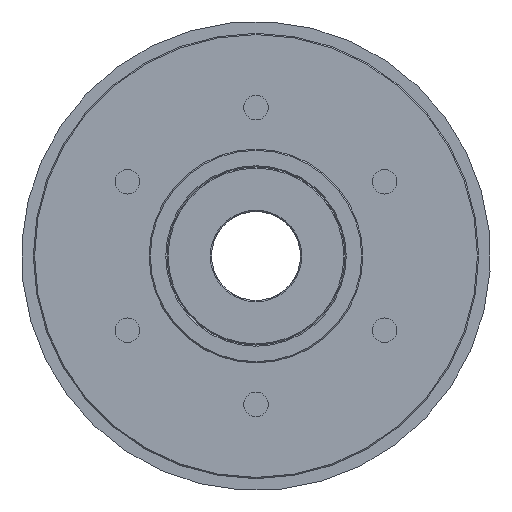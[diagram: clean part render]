
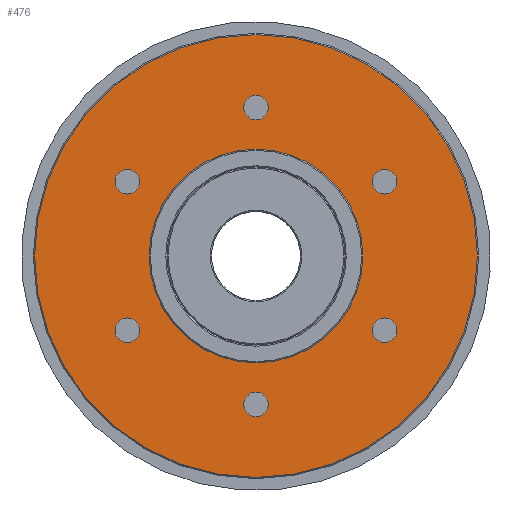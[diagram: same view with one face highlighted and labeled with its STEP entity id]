
A CAD part, left-side view. The second image highlights one B-rep face of the part: STEP entity #476.
In plain terms, the highlighted planar face has unit normal (-1, 0, 0).
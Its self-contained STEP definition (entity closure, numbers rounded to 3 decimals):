
#476 = ADVANCED_FACE( '', ( #960, #961, #962, #963, #964, #965, #966, #967 ), #968, .T. );
#960 = FACE_BOUND( '', #1592, .T. );
#961 = FACE_BOUND( '', #1593, .T. );
#962 = FACE_BOUND( '', #1594, .T. );
#963 = FACE_BOUND( '', #1595, .T. );
#964 = FACE_BOUND( '', #1596, .T. );
#965 = FACE_BOUND( '', #1597, .T. );
#966 = FACE_OUTER_BOUND( '', #1598, .T. );
#967 = FACE_BOUND( '', #1599, .T. );
#968 = PLANE( '', #1600 );
#1592 = EDGE_LOOP( '', ( #2259 ) );
#1593 = EDGE_LOOP( '', ( #2260 ) );
#1594 = EDGE_LOOP( '', ( #2261 ) );
#1595 = EDGE_LOOP( '', ( #2262 ) );
#1596 = EDGE_LOOP( '', ( #2263 ) );
#1597 = EDGE_LOOP( '', ( #2264 ) );
#1598 = EDGE_LOOP( '', ( #2265 ) );
#1599 = EDGE_LOOP( '', ( #2266 ) );
#1600 = AXIS2_PLACEMENT_3D( '', #2267, #2268, #2269 );
#2259 = ORIENTED_EDGE( '', *, *, #3042, .T. );
#2260 = ORIENTED_EDGE( '', *, *, #3045, .T. );
#2261 = ORIENTED_EDGE( '', *, *, #3152, .T. );
#2262 = ORIENTED_EDGE( '', *, *, #3153, .T. );
#2263 = ORIENTED_EDGE( '', *, *, #3154, .T. );
#2264 = ORIENTED_EDGE( '', *, *, #3155, .T. );
#2265 = ORIENTED_EDGE( '', *, *, #3156, .T. );
#2266 = ORIENTED_EDGE( '', *, *, #3157, .F. );
#2267 = CARTESIAN_POINT( '', ( 13., 0., 18. ) );
#2268 = DIRECTION( '', ( -1., 0., 0. ) );
#2269 = DIRECTION( '', ( 0., 0., 1. ) );
#3042 = EDGE_CURVE( '', #3402, #3402, #3403, .T. );
#3045 = EDGE_CURVE( '', #3407, #3407, #3408, .T. );
#3152 = EDGE_CURVE( '', #3585, #3585, #3586, .T. );
#3153 = EDGE_CURVE( '', #3587, #3587, #3588, .T. );
#3154 = EDGE_CURVE( '', #3589, #3589, #3590, .T. );
#3155 = EDGE_CURVE( '', #3591, #3591, #3592, .T. );
#3156 = EDGE_CURVE( '', #3593, #3593, #3594, .T. );
#3157 = EDGE_CURVE( '', #3595, #3595, #3596, .T. );
#3402 = VERTEX_POINT( '', #3935 );
#3403 = CIRCLE( '', #3936, 2.067 );
#3407 = VERTEX_POINT( '', #3940 );
#3408 = CIRCLE( '', #3941, 2.067 );
#3585 = VERTEX_POINT( '', #4369 );
#3586 = CIRCLE( '', #4370, 2.067 );
#3587 = VERTEX_POINT( '', #4371 );
#3588 = CIRCLE( '', #4372, 2.067 );
#3589 = VERTEX_POINT( '', #4373 );
#3590 = CIRCLE( '', #4374, 2.067 );
#3591 = VERTEX_POINT( '', #4375 );
#3592 = CIRCLE( '', #4376, 2.067 );
#3593 = VERTEX_POINT( '', #4377 );
#3594 = CIRCLE( '', #4378, 37.3 );
#3595 = VERTEX_POINT( '', #4379 );
#3596 = CIRCLE( '', #4380, 18. );
#3935 = CARTESIAN_POINT( '', ( 13., 23.441, 13.534 ) );
#3936 = AXIS2_PLACEMENT_3D( '', #4895, #4896, #4897 );
#3940 = CARTESIAN_POINT( '', ( 13., 23.441, -13.534 ) );
#3941 = AXIS2_PLACEMENT_3D( '', #4901, #4902, #4903 );
#4369 = CARTESIAN_POINT( '', ( 13., 0., -27.067 ) );
#4370 = AXIS2_PLACEMENT_3D( '', #5062, #5063, #5064 );
#4371 = CARTESIAN_POINT( '', ( 13., -23.441, -13.534 ) );
#4372 = AXIS2_PLACEMENT_3D( '', #5065, #5066, #5067 );
#4373 = CARTESIAN_POINT( '', ( 13., -23.441, 13.534 ) );
#4374 = AXIS2_PLACEMENT_3D( '', #5068, #5069, #5070 );
#4375 = CARTESIAN_POINT( '', ( 13., 0., 27.067 ) );
#4376 = AXIS2_PLACEMENT_3D( '', #5071, #5072, #5073 );
#4377 = CARTESIAN_POINT( '', ( 13., 0., 37.3 ) );
#4378 = AXIS2_PLACEMENT_3D( '', #5074, #5075, #5076 );
#4379 = CARTESIAN_POINT( '', ( 13., 0., 18. ) );
#4380 = AXIS2_PLACEMENT_3D( '', #5077, #5078, #5079 );
#4895 = CARTESIAN_POINT( '', ( 13., 21.651, 12.5 ) );
#4896 = DIRECTION( '', ( 1., 0., 0. ) );
#4897 = DIRECTION( '', ( 0., 0.866, 0.5 ) );
#4901 = CARTESIAN_POINT( '', ( 13., 21.651, -12.5 ) );
#4902 = DIRECTION( '', ( 1., 0., 0. ) );
#4903 = DIRECTION( '', ( 0., 0.866, -0.5 ) );
#5062 = CARTESIAN_POINT( '', ( 13., 0., -25. ) );
#5063 = DIRECTION( '', ( 1., 0., 0. ) );
#5064 = DIRECTION( '', ( 0., 0., -1. ) );
#5065 = CARTESIAN_POINT( '', ( 13., -21.651, -12.5 ) );
#5066 = DIRECTION( '', ( 1., 0., 0. ) );
#5067 = DIRECTION( '', ( 0., -0.866, -0.5 ) );
#5068 = CARTESIAN_POINT( '', ( 13., -21.651, 12.5 ) );
#5069 = DIRECTION( '', ( 1., 0., 0. ) );
#5070 = DIRECTION( '', ( 0., -0.866, 0.5 ) );
#5071 = CARTESIAN_POINT( '', ( 13., 0., 25. ) );
#5072 = DIRECTION( '', ( 1., 0., 0. ) );
#5073 = DIRECTION( '', ( 0., 0., 1. ) );
#5074 = CARTESIAN_POINT( '', ( 13., 0., 0. ) );
#5075 = DIRECTION( '', ( -1., 0., 0. ) );
#5076 = DIRECTION( '', ( 0., 0., 1. ) );
#5077 = CARTESIAN_POINT( '', ( 13., 0., 0. ) );
#5078 = DIRECTION( '', ( -1., 0., 0. ) );
#5079 = DIRECTION( '', ( 0., 0., 1. ) );
